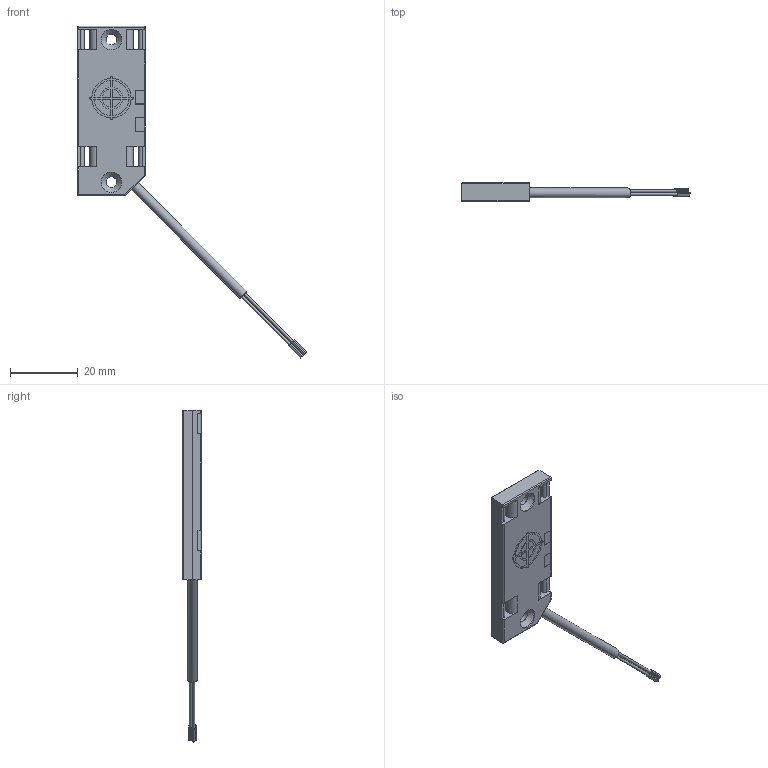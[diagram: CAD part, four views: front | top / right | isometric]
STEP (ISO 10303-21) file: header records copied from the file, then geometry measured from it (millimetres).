
FILE_DESCRIPTION(/* description */ (''),/* implementation_level */ '2;1');
FILE_NAME(/* name */ '3DCAD_LCS-1Q54P-F10xxx-K020P.stp',/* time_stamp */ '2017-03-29T09:56:00+02:00',/* author */ ('CC2'),/* organization */ ('Leuze electronic'),/* preprocessor_version */ 'ST-DEVELOPER v15',/* originating_system */ 'SIEMENS PLM Software NX 8.5',/* authorisation */ '');
FILE_SCHEMA (('AUTOMOTIVE_DESIGN { 1 0 10303 214 3 1 1 1 }'));
Length unit declared in the file: millimetre
Products named in the file (1): 19-102567_00.0
Bounding box: 67.43 x 5.53 x 97.78 mm (x, y, z)
Volume: 5308.8 mm3; surface area: 3658.3 mm2
Topology: 1 solids, 1 shells, 204 faces, 554 edges, 362 vertices
Faces by surface type: plane 122, cylinder 80, cone 2
Full cylindrical faces by diameter (mm): 0.8 x3, 2.9 x1, 3.2 x2, 4 x2, 6 x2
Entity records: 6379 total; most frequent: DIRECTION 1105, CARTESIAN_POINT 1103, ORIENTED_EDGE 1078, EDGE_CURVE 539, LINE 383, VECTOR 383, AXIS2_PLACEMENT_3D 361, VERTEX_POINT 359
